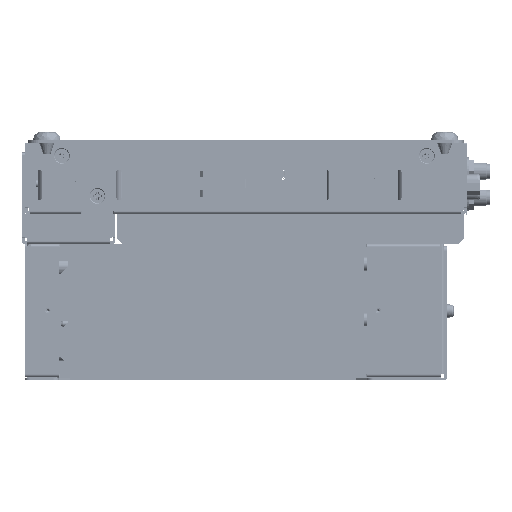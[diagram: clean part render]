
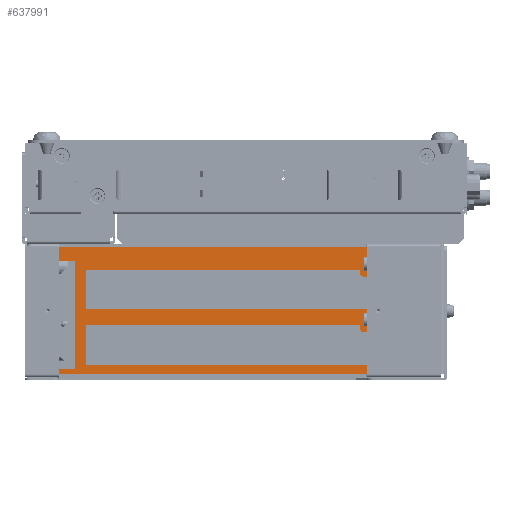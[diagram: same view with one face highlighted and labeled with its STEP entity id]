
A CAD part, left-side view. The second image highlights one B-rep face of the part: STEP entity #637991.
In plain terms, the highlighted planar face has unit normal (-1, 0, 0).
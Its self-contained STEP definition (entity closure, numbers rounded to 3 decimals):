
#164460=DIRECTION('',(0.,1.,0.));
#164461=VECTOR('',#164460,112.35);
#164462=CARTESIAN_POINT('',(-94.1,36.25,-81.));
#164463=LINE('',#164462,#164461);
#164636=DIRECTION('',(0.,1.,0.));
#164637=VECTOR('',#164636,102.505);
#164638=CARTESIAN_POINT('',(-94.1,36.25,-77.67));
#164639=LINE('',#164638,#164637);
#164823=DIRECTION('',(0.,1.,0.));
#164824=VECTOR('',#164823,102.505);
#164825=CARTESIAN_POINT('',(-94.1,36.25,-57.35));
#164826=LINE('',#164825,#164824);
#164847=DIRECTION('',(0.,-1.,0.));
#164848=VECTOR('',#164847,1.505);
#164849=CARTESIAN_POINT('',(-94.1,37.755,-65.67));
#164850=LINE('',#164849,#164848);
#164885=DIRECTION('',(0.,0.,-1.));
#164886=VECTOR('',#164885,1.5);
#164887=CARTESIAN_POINT('',(-94.1,38.755,-63.17));
#164888=LINE('',#164887,#164886);
#164897=DIRECTION('',(0.,-1.,0.));
#164898=VECTOR('',#164897,100.);
#164899=CARTESIAN_POINT('',(-94.1,138.755,-63.17));
#164900=LINE('',#164899,#164898);
#164909=DIRECTION('',(0.,0.,1.));
#164910=VECTOR('',#164909,14.5);
#164911=CARTESIAN_POINT('',(-94.1,138.755,-77.67));
#164912=LINE('',#164911,#164910);
#164913=DIRECTION('',(0.,-1.,0.));
#164914=VECTOR('',#164913,6.);
#164915=CARTESIAN_POINT('',(-94.1,148.6,-39.6));
#164916=LINE('',#164915,#164914);
#164917=DIRECTION('',(0.,0.,-1.));
#164918=VECTOR('',#164917,5.);
#164919=CARTESIAN_POINT('',(-94.1,148.6,-34.6));
#164920=LINE('',#164919,#164918);
#164921=DIRECTION('',(0.,1.,0.));
#164922=VECTOR('',#164921,112.35);
#164923=CARTESIAN_POINT('',(-94.1,36.25,-34.6));
#164924=LINE('',#164923,#164922);
#164925=DIRECTION('',(0.,0.,1.));
#164926=VECTOR('',#164925,10.75);
#164927=CARTESIAN_POINT('',(-94.1,36.25,-45.35));
#164928=LINE('',#164927,#164926);
#164929=DIRECTION('',(0.,-1.,0.));
#164930=VECTOR('',#164929,1.505);
#164931=CARTESIAN_POINT('',(-94.1,37.755,-45.35));
#164932=LINE('',#164931,#164930);
#164933=CARTESIAN_POINT('',(-94.1,37.755,-44.35));
#164934=DIRECTION('',(-1.,0.,0.));
#164935=DIRECTION('',(0.,1.,0.));
#164936=AXIS2_PLACEMENT_3D('',#164933,#164934,#164935);
#164938=DIRECTION('',(0.,0.,1.));
#164939=VECTOR('',#164938,8.32);
#164940=CARTESIAN_POINT('',(-94.1,36.25,-65.67));
#164941=LINE('',#164940,#164939);
#164942=CARTESIAN_POINT('',(-94.1,37.755,-64.67));
#164943=DIRECTION('',(-1.,0.,0.));
#164944=DIRECTION('',(0.,1.,0.));
#164945=AXIS2_PLACEMENT_3D('',#164942,#164943,#164944);
#164947=DIRECTION('',(0.,0.,1.));
#164948=VECTOR('',#164947,3.33);
#164949=CARTESIAN_POINT('',(-94.1,36.25,-81.));
#164950=LINE('',#164949,#164948);
#164951=DIRECTION('',(0.,0.,-1.));
#164952=VECTOR('',#164951,2.);
#164953=CARTESIAN_POINT('',(-94.1,148.6,-79.));
#164954=LINE('',#164953,#164952);
#165023=DIRECTION('',(0.,1.,0.));
#165024=VECTOR('',#165023,6.);
#165025=CARTESIAN_POINT('',(-94.1,142.6,-79.));
#165026=LINE('',#165025,#165024);
#165056=DIRECTION('',(0.,0.,-1.));
#165057=VECTOR('',#165056,39.4);
#165058=CARTESIAN_POINT('',(-94.1,142.6,-39.6));
#165059=LINE('',#165058,#165057);
#165138=DIRECTION('',(0.,0.,-1.));
#165139=VECTOR('',#165138,1.5);
#165140=CARTESIAN_POINT('',(-94.1,38.755,-42.85));
#165141=LINE('',#165140,#165139);
#165146=DIRECTION('',(0.,-1.,0.));
#165147=VECTOR('',#165146,100.);
#165148=CARTESIAN_POINT('',(-94.1,138.755,-42.85));
#165149=LINE('',#165148,#165147);
#165158=DIRECTION('',(0.,0.,1.));
#165159=VECTOR('',#165158,14.5);
#165160=CARTESIAN_POINT('',(-94.1,138.755,-57.35));
#165161=LINE('',#165160,#165159);
#269438=CARTESIAN_POINT('',(-94.1,142.6,-39.6));
#269439=VERTEX_POINT('',#269438);
#269440=CARTESIAN_POINT('',(-94.1,148.6,-39.6));
#269441=VERTEX_POINT('',#269440);
#269451=CARTESIAN_POINT('',(-94.1,148.6,-34.6));
#269453=VERTEX_POINT('',#269451);
#269462=CARTESIAN_POINT('',(-94.1,36.25,-34.6));
#269463=VERTEX_POINT('',#269462);
#269474=CARTESIAN_POINT('',(-94.1,148.6,-81.));
#269475=VERTEX_POINT('',#269474);
#269476=CARTESIAN_POINT('',(-94.1,148.6,-79.));
#269477=VERTEX_POINT('',#269476);
#269564=CARTESIAN_POINT('',(-94.1,36.25,-45.35));
#269565=VERTEX_POINT('',#269564);
#269574=CARTESIAN_POINT('',(-94.1,36.25,-57.35));
#269575=VERTEX_POINT('',#269574);
#269576=CARTESIAN_POINT('',(-94.1,36.25,-65.67));
#269577=VERTEX_POINT('',#269576);
#269586=CARTESIAN_POINT('',(-94.1,36.25,-77.67));
#269587=VERTEX_POINT('',#269586);
#269588=CARTESIAN_POINT('',(-94.1,36.25,-81.));
#269589=VERTEX_POINT('',#269588);
#269634=CARTESIAN_POINT('',(-94.1,37.755,-45.35));
#269635=VERTEX_POINT('',#269634);
#269636=CARTESIAN_POINT('',(-94.1,38.755,-44.35));
#269637=VERTEX_POINT('',#269636);
#269638=CARTESIAN_POINT('',(-94.1,38.755,-42.85));
#269639=VERTEX_POINT('',#269638);
#269640=CARTESIAN_POINT('',(-94.1,138.755,-42.85));
#269641=VERTEX_POINT('',#269640);
#269642=CARTESIAN_POINT('',(-94.1,138.755,-57.35));
#269643=VERTEX_POINT('',#269642);
#269644=CARTESIAN_POINT('',(-94.1,37.755,-65.67));
#269645=VERTEX_POINT('',#269644);
#269646=CARTESIAN_POINT('',(-94.1,38.755,-64.67));
#269647=VERTEX_POINT('',#269646);
#269648=CARTESIAN_POINT('',(-94.1,38.755,-63.17));
#269649=VERTEX_POINT('',#269648);
#269650=CARTESIAN_POINT('',(-94.1,138.755,-63.17));
#269651=VERTEX_POINT('',#269650);
#269652=CARTESIAN_POINT('',(-94.1,138.755,-77.67));
#269653=VERTEX_POINT('',#269652);
#269654=CARTESIAN_POINT('',(-94.1,142.6,-79.));
#269655=VERTEX_POINT('',#269654);
#637952=CARTESIAN_POINT('',(-94.1,92.425,-57.8));
#637953=DIRECTION('',(1.,0.,0.));
#637954=DIRECTION('',(0.,1.,0.));
#637955=AXIS2_PLACEMENT_3D('',#637952,#637953,#637954);
#637956=PLANE('',#637955);
#637957=ORIENTED_EDGE('',*,*,#637178,.F.);
#637959=ORIENTED_EDGE('',*,*,#637958,.F.);
#637961=ORIENTED_EDGE('',*,*,#637960,.F.);
#637962=ORIENTED_EDGE('',*,*,#637009,.F.);
#637964=ORIENTED_EDGE('',*,*,#637963,.F.);
#637966=ORIENTED_EDGE('',*,*,#637965,.F.);
#637968=ORIENTED_EDGE('',*,*,#637967,.F.);
#637970=ORIENTED_EDGE('',*,*,#637969,.F.);
#637972=ORIENTED_EDGE('',*,*,#637971,.F.);
#637973=ORIENTED_EDGE('',*,*,#637802,.F.);
#637974=ORIENTED_EDGE('',*,*,#636997,.F.);
#637975=ORIENTED_EDGE('',*,*,#637852,.F.);
#637976=ORIENTED_EDGE('',*,*,#637877,.F.);
#637977=ORIENTED_EDGE('',*,*,#637898,.F.);
#637978=ORIENTED_EDGE('',*,*,#637919,.F.);
#637979=ORIENTED_EDGE('',*,*,#637939,.F.);
#637980=ORIENTED_EDGE('',*,*,#637416,.F.);
#637981=ORIENTED_EDGE('',*,*,#636985,.F.);
#637982=ORIENTED_EDGE('',*,*,#637067,.T.);
#637984=ORIENTED_EDGE('',*,*,#637983,.F.);
#637986=ORIENTED_EDGE('',*,*,#637985,.F.);
#637988=ORIENTED_EDGE('',*,*,#637987,.F.);
#637989=EDGE_LOOP('',(#637957,#637959,#637961,#637962,#637964,#637966,#637968,
#637970,#637972,#637973,#637974,#637975,#637976,#637977,#637978,#637979,#637980,
#637981,#637982,#637984,#637986,#637988));
#637990=FACE_OUTER_BOUND('',#637989,.F.);
#637991=ADVANCED_FACE('',(#637990),#637956,.F.);
#164937=CIRCLE('',#164936,1.);
#164946=CIRCLE('',#164945,1.);
#636985=EDGE_CURVE('',#269589,#269587,#164950,.T.);
#636997=EDGE_CURVE('',#269577,#269575,#164941,.T.);
#637009=EDGE_CURVE('',#269565,#269463,#164928,.T.);
#637067=EDGE_CURVE('',#269589,#269475,#164463,.T.);
#637178=EDGE_CURVE('',#269441,#269439,#164916,.T.);
#637416=EDGE_CURVE('',#269587,#269653,#164639,.T.);
#637802=EDGE_CURVE('',#269575,#269643,#164826,.T.);
#637852=EDGE_CURVE('',#269645,#269577,#164850,.T.);
#637877=EDGE_CURVE('',#269647,#269645,#164946,.T.);
#637898=EDGE_CURVE('',#269649,#269647,#164888,.T.);
#637919=EDGE_CURVE('',#269651,#269649,#164900,.T.);
#637939=EDGE_CURVE('',#269653,#269651,#164912,.T.);
#637958=EDGE_CURVE('',#269453,#269441,#164920,.T.);
#637960=EDGE_CURVE('',#269463,#269453,#164924,.T.);
#637963=EDGE_CURVE('',#269635,#269565,#164932,.T.);
#637965=EDGE_CURVE('',#269637,#269635,#164937,.T.);
#637967=EDGE_CURVE('',#269639,#269637,#165141,.T.);
#637969=EDGE_CURVE('',#269641,#269639,#165149,.T.);
#637971=EDGE_CURVE('',#269643,#269641,#165161,.T.);
#637983=EDGE_CURVE('',#269477,#269475,#164954,.T.);
#637985=EDGE_CURVE('',#269655,#269477,#165026,.T.);
#637987=EDGE_CURVE('',#269439,#269655,#165059,.T.);
